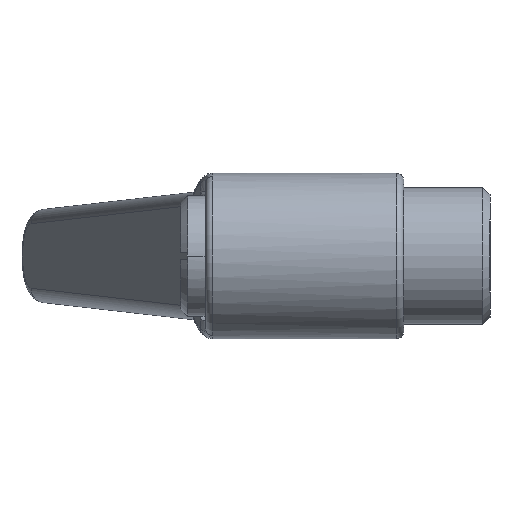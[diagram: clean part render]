
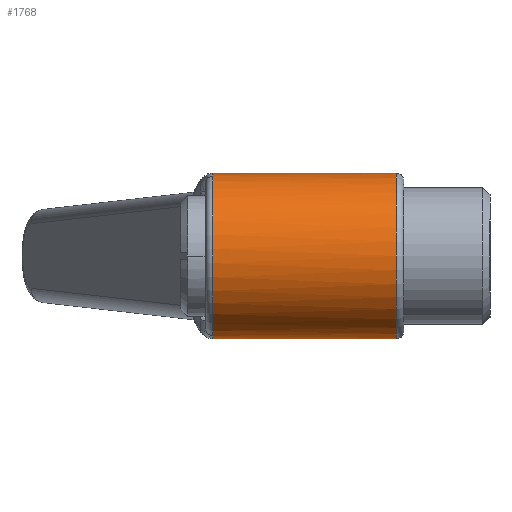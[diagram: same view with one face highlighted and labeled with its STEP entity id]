
A CAD part, left-side view. The second image highlights one B-rep face of the part: STEP entity #1768.
In plain terms, the highlighted cylindrical face has radius 11.5 mm (diameter 23 mm), a partial arc.
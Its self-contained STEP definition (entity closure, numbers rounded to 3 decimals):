
#19 = LINE ( 'NONE', #2167, #233 ) ;
#38 = CIRCLE ( 'NONE', #963, 11.5 ) ;
#52 = CARTESIAN_POINT ( 'NONE',  ( -2.046, -1., -11.364 ) ) ;
#94 = CIRCLE ( 'NONE', #1935, 11.5 ) ;
#126 = VECTOR ( 'NONE', #1447, 1000. ) ;
#147 = B_SPLINE_CURVE_WITH_KNOTS ( 'NONE', 3,
 ( #1590, #52, #742, #1953 ),
 .UNSPECIFIED., .F., .F.,
 ( 4, 4 ),
 ( 0., 0.003 ),
 .UNSPECIFIED. ) ;
#161 = LINE ( 'NONE', #430, #126 ) ;
#215 = AXIS2_PLACEMENT_3D ( 'NONE', #2097, #550, #1072 ) ;
#233 = VECTOR ( 'NONE', #783, 1000. ) ;
#287 = CARTESIAN_POINT ( 'NONE',  ( -2.047, -0.985, 11.328 ) ) ;
#349 = FACE_OUTER_BOUND ( 'NONE', #885, .T. ) ;
#430 = CARTESIAN_POINT ( 'NONE',  ( 0., 27.5, 11.5 ) ) ;
#456 = CARTESIAN_POINT ( 'NONE',  ( -3.052, -1., 11.088 ) ) ;
#483 = CARTESIAN_POINT ( 'NONE',  ( -3.052, -1., 11.088 ) ) ;
#550 = DIRECTION ( 'NONE',  ( 0., -1., 0. ) ) ;
#591 = CARTESIAN_POINT ( 'NONE',  ( 0., -26.5, 0. ) ) ;
#595 = CARTESIAN_POINT ( 'NONE',  ( 0., -26.5, -11.5 ) ) ;
#670 = CARTESIAN_POINT ( 'NONE',  ( 0., -1., 0. ) ) ;
#703 = EDGE_CURVE ( 'NONE', #1675, #1421, #161, .T. ) ;
#717 = VERTEX_POINT ( 'NONE', #595 ) ;
#730 = CARTESIAN_POINT ( 'NONE',  ( -3.052, -1., -11.088 ) ) ;
#741 = CYLINDRICAL_SURFACE ( 'NONE', #215, 11.5 ) ;
#742 = CARTESIAN_POINT ( 'NONE',  ( -1.028, -0.94, -11.5 ) ) ;
#759 = DIRECTION ( 'NONE',  ( 0., 0., 1. ) ) ;
#783 = DIRECTION ( 'NONE',  ( 0., -1., 0. ) ) ;
#805 = EDGE_CURVE ( 'NONE', #1675, #922, #1210, .T. ) ;
#818 = EDGE_CURVE ( 'NONE', #1831, #717, #19, .T. ) ;
#843 = DIRECTION ( 'NONE',  ( 0., 0., -1. ) ) ;
#885 = EDGE_LOOP ( 'NONE', ( #1290, #1370, #1438, #1516, #1645, #1699 ) ) ;
#922 = VERTEX_POINT ( 'NONE', #483 ) ;
#963 = AXIS2_PLACEMENT_3D ( 'NONE', #591, #1792, #759 ) ;
#1023 = EDGE_CURVE ( 'NONE', #922, #1818, #94, .T. ) ;
#1048 = CARTESIAN_POINT ( 'NONE',  ( 0., -0.814, 11.5 ) ) ;
#1072 = DIRECTION ( 'NONE',  ( 0., 0., -1. ) ) ;
#1136 = CARTESIAN_POINT ( 'NONE',  ( -0.514, -0.877, 11.5 ) ) ;
#1157 = EDGE_CURVE ( 'NONE', #1818, #1831, #147, .T. ) ;
#1199 = EDGE_CURVE ( 'NONE', #717, #1421, #38, .T. ) ;
#1210 = B_SPLINE_CURVE_WITH_KNOTS ( 'NONE', 3,
 ( #2160, #1136, #1301, #287, #1474, #456 ),
 .UNSPECIFIED., .F., .F.,
 ( 4, 2, 4 ),
 ( 0.003, 0.005, 0.006 ),
 .UNSPECIFIED. ) ;
#1290 = ORIENTED_EDGE ( 'NONE', *, *, #703, .F. ) ;
#1301 = CARTESIAN_POINT ( 'NONE',  ( -1.029, -0.924, 11.465 ) ) ;
#1370 = ORIENTED_EDGE ( 'NONE', *, *, #805, .T. ) ;
#1421 = VERTEX_POINT ( 'NONE', #1847 ) ;
#1424 = CARTESIAN_POINT ( 'NONE',  ( 0., -0.814, -11.5 ) ) ;
#1438 = ORIENTED_EDGE ( 'NONE', *, *, #1023, .T. ) ;
#1447 = DIRECTION ( 'NONE',  ( 0., -1., 0. ) ) ;
#1474 = CARTESIAN_POINT ( 'NONE',  ( -2.551, -1., 11.225 ) ) ;
#1516 = ORIENTED_EDGE ( 'NONE', *, *, #1157, .T. ) ;
#1590 = CARTESIAN_POINT ( 'NONE',  ( -3.052, -1., -11.088 ) ) ;
#1645 = ORIENTED_EDGE ( 'NONE', *, *, #818, .T. ) ;
#1675 = VERTEX_POINT ( 'NONE', #1048 ) ;
#1699 = ORIENTED_EDGE ( 'NONE', *, *, #1199, .T. ) ;
#1768 = ADVANCED_FACE ( 'NONE', ( #349 ), #741, .T. ) ;
#1792 = DIRECTION ( 'NONE',  ( 0., 1., 0. ) ) ;
#1818 = VERTEX_POINT ( 'NONE', #730 ) ;
#1831 = VERTEX_POINT ( 'NONE', #1424 ) ;
#1847 = CARTESIAN_POINT ( 'NONE',  ( 0., -26.5, 11.5 ) ) ;
#1876 = DIRECTION ( 'NONE',  ( 0., -1., 0. ) ) ;
#1935 = AXIS2_PLACEMENT_3D ( 'NONE', #670, #1876, #843 ) ;
#1953 = CARTESIAN_POINT ( 'NONE',  ( 0., -0.814, -11.5 ) ) ;
#2097 = CARTESIAN_POINT ( 'NONE',  ( 0., 27.5, 0. ) ) ;
#2160 = CARTESIAN_POINT ( 'NONE',  ( 0., -0.814, 11.5 ) ) ;
#2167 = CARTESIAN_POINT ( 'NONE',  ( 0., 27.5, -11.5 ) ) ;
